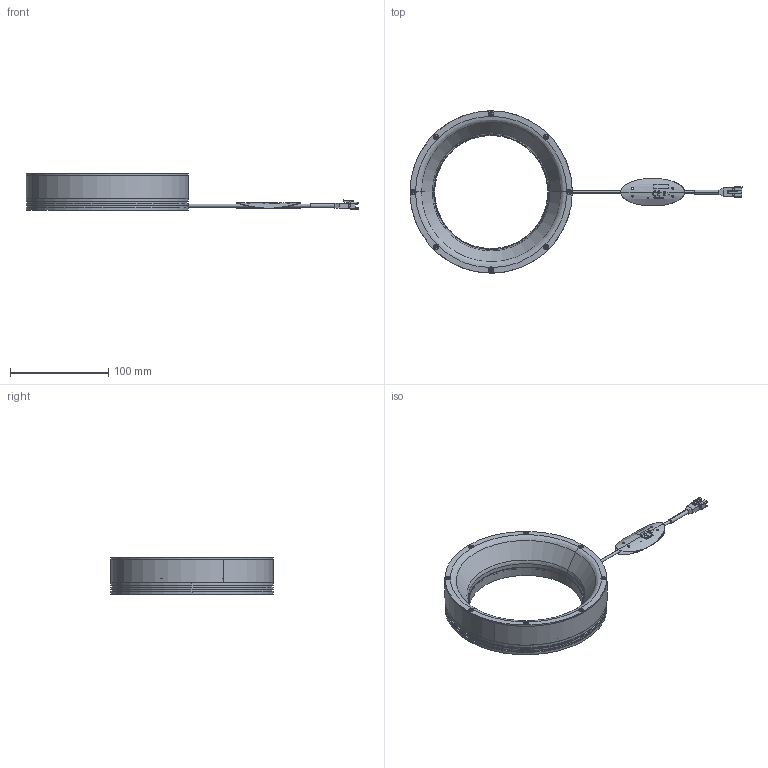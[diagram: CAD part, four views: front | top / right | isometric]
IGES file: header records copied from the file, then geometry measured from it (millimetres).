
Start section: 3D InterOp IGES (v. 2019 1.0.2), Spatial Corp. Copyright (c) 1999-2017.
Global section: file name: VMR-165115_DRAWING_3D.iges; native system: Spatial Corp.; preprocessor: 3D InterOp ACIS/IGES; author: Noname; organization: Noname; date: 20230913.095847; units: millimetre
Bounding box: 337.5 x 165 x 37.75 mm (x, y, z)
Surface area: 152790 mm2 (no closed solid volume)
Topology: 0 solids, 0 shells, 1040 faces, 5478 edges, 5382 vertices
Faces by surface type: extrusion 566, revolution 468, bspline 6
